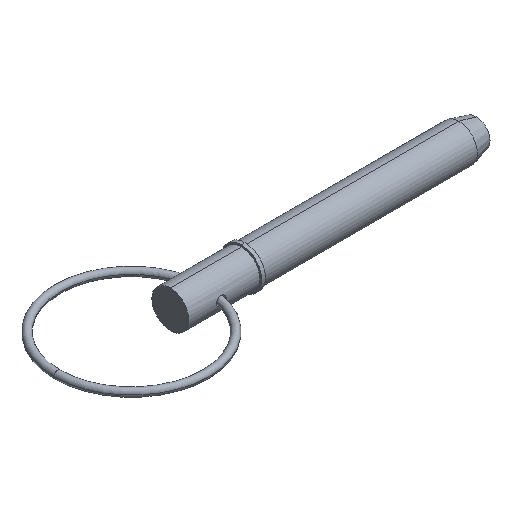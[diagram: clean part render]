
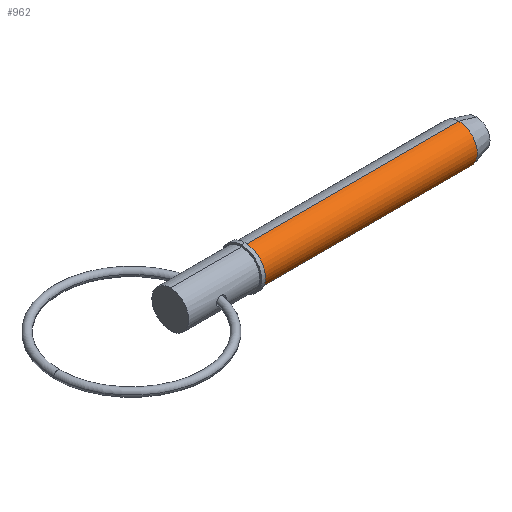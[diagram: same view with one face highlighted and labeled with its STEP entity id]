
A CAD part, isometric view. The second image highlights one B-rep face of the part: STEP entity #962.
In plain terms, the highlighted cylindrical face has radius 6.35 mm (diameter 12.7 mm), a partial arc.
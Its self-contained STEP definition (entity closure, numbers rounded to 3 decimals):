
#5 = CARTESIAN_POINT ( 'NONE',  ( 0., 0., 6.35 ) ) ;
#52 = CIRCLE ( 'NONE', #256, 6.35 ) ;
#53 = DIRECTION ( 'NONE',  ( 1., 0., 0. ) ) ;
#57 = VERTEX_POINT ( 'NONE', #593 ) ;
#121 = VECTOR ( 'NONE', #328, 1000. ) ;
#128 = CARTESIAN_POINT ( 'NONE',  ( 99.155, 0., 0. ) ) ;
#136 = VERTEX_POINT ( 'NONE', #692 ) ;
#150 = LINE ( 'NONE', #5, #121 ) ;
#213 = VERTEX_POINT ( 'NONE', #390 ) ;
#245 = CYLINDRICAL_SURFACE ( 'NONE', #561, 6.35 ) ;
#251 = CARTESIAN_POINT ( 'NONE',  ( 99.155, 0., -6.35 ) ) ;
#256 = AXIS2_PLACEMENT_3D ( 'NONE', #447, #1022, #861 ) ;
#279 = EDGE_CURVE ( 'NONE', #57, #213, #52, .T. ) ;
#328 = DIRECTION ( 'NONE',  ( 1., 0., 0. ) ) ;
#390 = CARTESIAN_POINT ( 'NONE',  ( 25.7, 0., -6.35 ) ) ;
#407 = AXIS2_PLACEMENT_3D ( 'NONE', #128, #958, #526 ) ;
#408 = DIRECTION ( 'NONE',  ( 0., 0., -1. ) ) ;
#447 = CARTESIAN_POINT ( 'NONE',  ( 25.7, 0., 0. ) ) ;
#449 = EDGE_LOOP ( 'NONE', ( #823, #935, #550, #780 ) ) ;
#526 = DIRECTION ( 'NONE',  ( 0., 0., -1. ) ) ;
#550 = ORIENTED_EDGE ( 'NONE', *, *, #668, .T. ) ;
#561 = AXIS2_PLACEMENT_3D ( 'NONE', #568, #901, #408 ) ;
#568 = CARTESIAN_POINT ( 'NONE',  ( 0., 0., 0. ) ) ;
#593 = CARTESIAN_POINT ( 'NONE',  ( 25.7, 0., 6.35 ) ) ;
#668 = EDGE_CURVE ( 'NONE', #213, #991, #877, .T. ) ;
#692 = CARTESIAN_POINT ( 'NONE',  ( 99.155, 0., 6.35 ) ) ;
#717 = EDGE_CURVE ( 'NONE', #136, #991, #941, .T. ) ;
#780 = ORIENTED_EDGE ( 'NONE', *, *, #717, .F. ) ;
#823 = ORIENTED_EDGE ( 'NONE', *, *, #939, .F. ) ;
#861 = DIRECTION ( 'NONE',  ( 0., 0., -1. ) ) ;
#877 = LINE ( 'NONE', #948, #992 ) ;
#901 = DIRECTION ( 'NONE',  ( 1., 0., 0. ) ) ;
#935 = ORIENTED_EDGE ( 'NONE', *, *, #279, .T. ) ;
#939 = EDGE_CURVE ( 'NONE', #57, #136, #150, .T. ) ;
#941 = CIRCLE ( 'NONE', #407, 6.35 ) ;
#948 = CARTESIAN_POINT ( 'NONE',  ( 0., 0., -6.35 ) ) ;
#958 = DIRECTION ( 'NONE',  ( 1., 0., 0. ) ) ;
#962 = ADVANCED_FACE ( 'NONE', ( #978 ), #245, .T. ) ;
#978 = FACE_OUTER_BOUND ( 'NONE', #449, .T. ) ;
#991 = VERTEX_POINT ( 'NONE', #251 ) ;
#992 = VECTOR ( 'NONE', #53, 1000. ) ;
#1022 = DIRECTION ( 'NONE',  ( 1., 0., 0. ) ) ;
